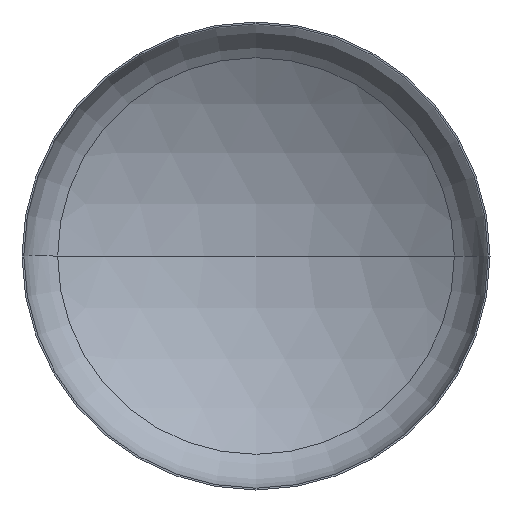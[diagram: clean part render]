
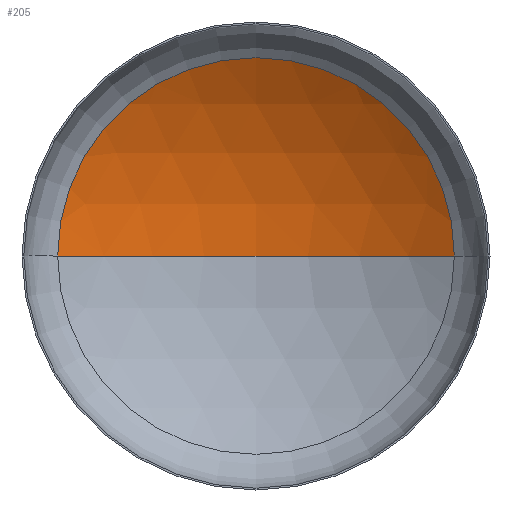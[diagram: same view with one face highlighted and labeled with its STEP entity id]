
A CAD part, front view. The second image highlights one B-rep face of the part: STEP entity #205.
In plain terms, the highlighted spherical face has radius 6400 mm.
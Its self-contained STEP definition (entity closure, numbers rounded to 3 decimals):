
#4 = DIRECTION ( 'NONE',  ( 0., 0., 1. ) ) ;
#18 = EDGE_LOOP ( 'NONE', ( #48, #142, #287 ) ) ;
#23 = DIRECTION ( 'NONE',  ( 1., 0., 0. ) ) ;
#25 = VERTEX_POINT ( 'NONE', #260 ) ;
#27 = DIRECTION ( 'NONE',  ( -1., 0., 0. ) ) ;
#30 = CIRCLE ( 'NONE', #96, 6400. ) ;
#31 = CARTESIAN_POINT ( 'NONE',  ( 0., -4284.835, 0. ) ) ;
#36 = VERTEX_POINT ( 'NONE', #57 ) ;
#48 = ORIENTED_EDGE ( 'NONE', *, *, #163, .F. ) ;
#53 = CARTESIAN_POINT ( 'NONE',  ( 3390.638, 1143.201, 0. ) ) ;
#57 = CARTESIAN_POINT ( 'NONE',  ( 0., 2115.165, 0. ) ) ;
#67 = AXIS2_PLACEMENT_3D ( 'NONE', #31, #144, #27 ) ;
#92 = AXIS2_PLACEMENT_3D ( 'NONE', #393, #4, #23 ) ;
#96 = AXIS2_PLACEMENT_3D ( 'NONE', #160, #123, #322 ) ;
#101 = AXIS2_PLACEMENT_3D ( 'NONE', #183, #179, #180 ) ;
#123 = DIRECTION ( 'NONE',  ( 0., 0., -1. ) ) ;
#136 = SPHERICAL_SURFACE ( 'NONE', #67, 6400. ) ;
#142 = ORIENTED_EDGE ( 'NONE', *, *, #162, .T. ) ;
#144 = DIRECTION ( 'NONE',  ( 0., 0., -1. ) ) ;
#158 = CIRCLE ( 'NONE', #101, 3390.638 ) ;
#159 = EDGE_CURVE ( 'NONE', #226, #25, #158, .T. ) ;
#160 = CARTESIAN_POINT ( 'NONE',  ( 0., -4284.835, 0. ) ) ;
#162 = EDGE_CURVE ( 'NONE', #36, #226, #30, .T. ) ;
#163 = EDGE_CURVE ( 'NONE', #36, #25, #295, .T. ) ;
#179 = DIRECTION ( 'NONE',  ( 0., -1., 0. ) ) ;
#180 = DIRECTION ( 'NONE',  ( 1., 0., 0. ) ) ;
#183 = CARTESIAN_POINT ( 'NONE',  ( 0., 1143.201, 0. ) ) ;
#205 = ADVANCED_FACE ( 'NONE', ( #283 ), #136, .F. ) ;
#226 = VERTEX_POINT ( 'NONE', #53 ) ;
#260 = CARTESIAN_POINT ( 'NONE',  ( -3390.638, 1143.201, 0. ) ) ;
#283 = FACE_OUTER_BOUND ( 'NONE', #18, .T. ) ;
#287 = ORIENTED_EDGE ( 'NONE', *, *, #159, .T. ) ;
#295 = CIRCLE ( 'NONE', #92, 6400. ) ;
#322 = DIRECTION ( 'NONE',  ( -1., 0., 0. ) ) ;
#393 = CARTESIAN_POINT ( 'NONE',  ( 0., -4284.835, 0. ) ) ;
